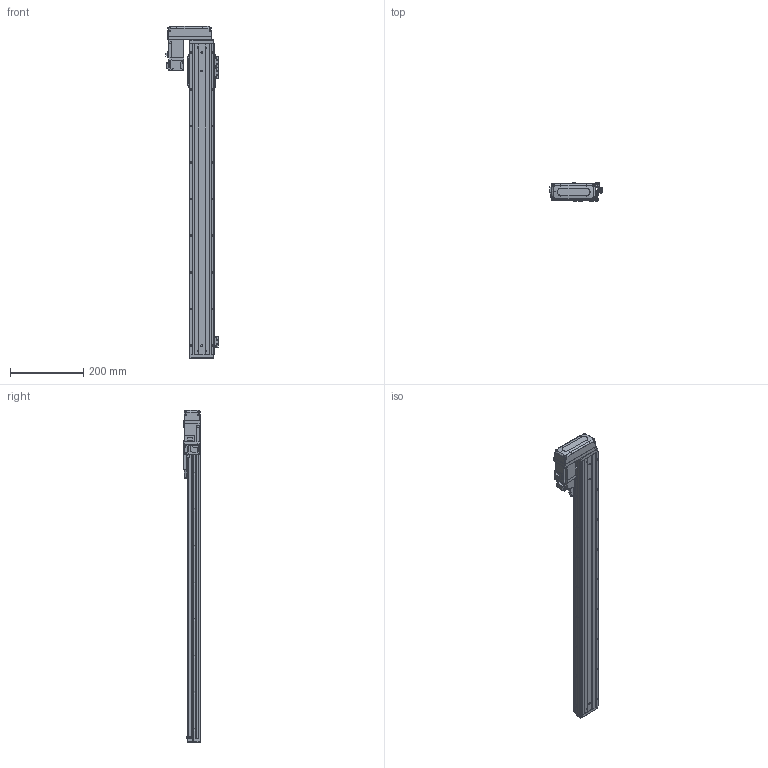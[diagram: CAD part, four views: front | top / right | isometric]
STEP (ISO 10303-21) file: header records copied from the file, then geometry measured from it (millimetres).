
FILE_DESCRIPTION (( 'STEP AP203' ), '1' );
FILE_NAME ('CTHA60-700-BR-M10-C4L.step', '2022-03-19T06:23:08', ( '微软用户' ), ( '微软中国' ), 'SwSTEP 2.0', 'SolidWorks 2020', '' );
FILE_SCHEMA (( 'CONFIG_CONTROL_DESIGN' ));
Length unit declared in the file: millimetre
Products named in the file (18): CTHA60-017; CTHA60-033; CTHA60-021; CTHA60-700-BR-M10-C4L; CTHA60-001_850; GBT 70.1-M4×16; CTHA60-004; GBT77-2000 M3×3; HG-KR13（三菱）; CTHA60-005; GBT 70.1-M3℅6; CTHA60-002; GB¨uT 70.2-M3¡Á6_M3¡Á6; GBT 70.3-M3℅6; CTHA60-031; EE_SX911P_R; CTHA60-016; CTHA60-006-1
Assembly tree (54 placements, depth 2):
  CTHA60-700-BR-M10-C4L
    CTHA60-001_850
    CTHA60-004
    CTHA60-005
    GB¨uT 70.2-M3¡Á6_M3¡Á6  x10
    EE_SX911P_R  x3
    CTHA60-017  x3
    CTHA60-021  x2
    GBT 70.1-M4×16  x10
    GBT77-2000 M3×3  x6
    GBT 70.1-M3℅6  x6
    GBT 70.3-M3℅6  x4
    CTHA60-016  x2
    HG-KR13（三菱）
    CTHA60-002
    CTHA60-031
    CTHA60-006-1
    CTHA60-033
Bounding box: 143.62 x 48 x 907 mm (x, y, z)
Volume: 1541924.1 mm3; surface area: 458430.7 mm2
Topology: 56 solids, 56 shells, 2554 faces, 6149 edges, 3793 vertices
Faces by surface type: plane 1473, cylinder 589, cone 344, torus 92, bspline 32, sphere 24
Entity records: 46303 total; most frequent: CARTESIAN_POINT 8922, DIRECTION 7166, ORIENTED_EDGE 7106, EDGE_CURVE 3553, LINE 2526, VECTOR 2526, AXIS2_PLACEMENT_3D 2320, VERTEX_POINT 2252
